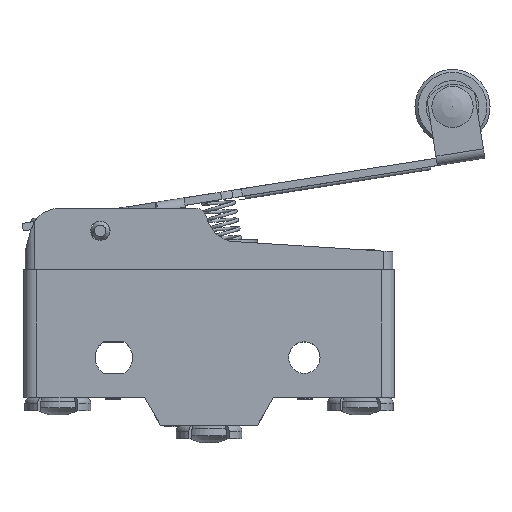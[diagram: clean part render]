
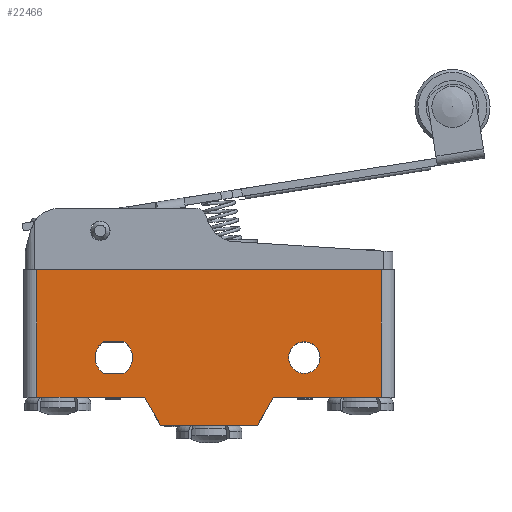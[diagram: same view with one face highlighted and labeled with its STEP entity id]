
A CAD part, top view. The second image highlights one B-rep face of the part: STEP entity #22466.
In plain terms, the highlighted planar face has unit normal (0, 0, 1).
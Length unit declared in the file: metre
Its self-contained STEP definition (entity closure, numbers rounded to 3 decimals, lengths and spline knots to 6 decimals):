
#17550=CARTESIAN_POINT('',(0.007822,-0.007756,0.05825));
#17551=VERTEX_POINT('',#17550);
#17554=CARTESIAN_POINT('',(0.005686,-0.011456,0.05825));
#17555=DIRECTION('',(0.5,0.866,0.));
#17556=VECTOR('',#17555,1.);
#17557=LINE('',#17554,#17556);
#17558=CARTESIAN_POINT('',(0.005686,-0.011456,0.05825));
#17559=VERTEX_POINT('',#17558);
#17560=EDGE_CURVE('',#17559,#17551,#17557,.T.);
#18593=CARTESIAN_POINT('',(-0.007242,-0.011456,0.05825));
#18594=VERTEX_POINT('',#18593);
#18597=CARTESIAN_POINT('',(-0.009378,-0.007756,0.05825));
#18598=DIRECTION('',(0.5,-0.866,0.));
#18599=VECTOR('',#18598,1.);
#18600=LINE('',#18597,#18599);
#18601=CARTESIAN_POINT('',(-0.009378,-0.007756,0.05825));
#18602=VERTEX_POINT('',#18601);
#18603=EDGE_CURVE('',#18602,#18594,#18600,.T.);
#18680=CARTESIAN_POINT('',(-0.023728,0.009244,0.05825));
#18681=VERTEX_POINT('',#18680);
#18690=CARTESIAN_POINT('',(-0.023728,-0.007756,0.05825));
#18691=VERTEX_POINT('',#18690);
#18694=CARTESIAN_POINT('',(-0.023728,-0.003156,0.05825));
#18695=DIRECTION('',(0.,-1.,0.));
#18696=VECTOR('',#18695,1.);
#18697=LINE('',#18694,#18696);
#18698=EDGE_CURVE('',#18681,#18691,#18697,.T.);
#20077=CARTESIAN_POINT('',(-0.025478,-0.007756,0.05825));
#20078=DIRECTION('',(1.,0.,0.));
#20079=VECTOR('',#20078,1.);
#20080=LINE('',#20077,#20079);
#20081=EDGE_CURVE('',#18691,#18602,#20080,.T.);
#20192=CARTESIAN_POINT('',(0.022172,-0.007756,0.05825));
#20193=VERTEX_POINT('',#20192);
#20211=CARTESIAN_POINT('',(0.022172,0.009244,0.05825));
#20212=VERTEX_POINT('',#20211);
#20215=CARTESIAN_POINT('',(0.022172,-0.003156,0.05825));
#20216=DIRECTION('',(0.,1.,0.));
#20217=VECTOR('',#20216,1.);
#20218=LINE('',#20215,#20217);
#20219=EDGE_CURVE('',#20193,#20212,#20218,.T.);
#20329=CARTESIAN_POINT('',(0.023922,0.009244,0.05825));
#20330=DIRECTION('',(-1.,0.,0.));
#20331=VECTOR('',#20330,1.);
#20332=LINE('',#20329,#20331);
#20333=EDGE_CURVE('',#20212,#18681,#20332,.T.);
#22251=CARTESIAN_POINT('',(0.007822,-0.007756,0.05825));
#22252=DIRECTION('',(1.,0.,0.));
#22253=VECTOR('',#22252,1.);
#22254=LINE('',#22251,#22253);
#22255=EDGE_CURVE('',#17551,#20193,#22254,.T.);
#22289=CARTESIAN_POINT('',(-0.014834,-0.000356,0.05825));
#22290=VERTEX_POINT('',#22289);
#22293=CARTESIAN_POINT('',(-0.013478,-0.002456,0.05825));
#22294=DIRECTION('',(0.,0.,1.));
#22295=DIRECTION('',(1.,0.,0.));
#22296=AXIS2_PLACEMENT_3D('',#22293,#22294,#22295);
#22297=CIRCLE('',#22296,0.0025);
#22298=CARTESIAN_POINT('',(-0.014834,-0.004556,0.05825));
#22299=VERTEX_POINT('',#22298);
#22300=EDGE_CURVE('',#22290,#22299,#22297,.T.);
#22333=CARTESIAN_POINT('',(-0.012121,-0.004556,0.05825));
#22334=DIRECTION('',(1.,0.,0.));
#22335=VECTOR('',#22334,1.);
#22336=LINE('',#22333,#22335);
#22337=CARTESIAN_POINT('',(-0.012121,-0.004556,0.05825));
#22338=VERTEX_POINT('',#22337);
#22339=EDGE_CURVE('',#22299,#22338,#22336,.T.);
#22363=CARTESIAN_POINT('',(-0.013478,-0.002456,0.05825));
#22364=DIRECTION('',(0.,0.,1.));
#22365=DIRECTION('',(1.,0.,0.));
#22366=AXIS2_PLACEMENT_3D('',#22363,#22364,#22365);
#22367=CIRCLE('',#22366,0.0025);
#22368=CARTESIAN_POINT('',(-0.012121,-0.000356,0.05825));
#22369=VERTEX_POINT('',#22368);
#22370=EDGE_CURVE('',#22338,#22369,#22367,.T.);
#22405=CARTESIAN_POINT('',(-0.012121,-0.000356,0.05825));
#22406=DIRECTION('',(-1.,0.,0.));
#22407=VECTOR('',#22406,1.);
#22408=LINE('',#22405,#22407);
#22409=EDGE_CURVE('',#22369,#22290,#22408,.T.);
#22429=CARTESIAN_POINT('',(0.012562,-0.003156,0.05825));
#22430=DIRECTION('',(0.,0.,-1.));
#22431=DIRECTION('',(-1.,0.,0.));
#22432=AXIS2_PLACEMENT_3D('',#22429,#22430,#22431);
#22433=PLANE('',#22432);
#22434=ORIENTED_EDGE('',*,*,#22409,.F.);
#22435=ORIENTED_EDGE('',*,*,#22370,.F.);
#22436=ORIENTED_EDGE('',*,*,#22339,.F.);
#22437=ORIENTED_EDGE('',*,*,#22300,.F.);
#22438=EDGE_LOOP('',(#22434,#22435,#22436,#22437));
#22439=FACE_BOUND('',#22438,.T.);
#22440=CARTESIAN_POINT('',(0.011922,-0.002456,0.05825));
#22441=DIRECTION('',(0.,0.,1.));
#22442=DIRECTION('',(1.,0.,0.));
#22443=AXIS2_PLACEMENT_3D('',#22440,#22441,#22442);
#22444=CIRCLE('',#22443,0.0021);
#22445=CARTESIAN_POINT('',(0.009822,-0.002456,0.05825));
#22446=VERTEX_POINT('',#22445);
#22447=EDGE_CURVE('',#22446,#22446,#22444,.T.);
#22448=ORIENTED_EDGE('',*,*,#22447,.F.);
#22449=EDGE_LOOP('',(#22448));
#22450=FACE_BOUND('',#22449,.T.);
#22451=ORIENTED_EDGE('',*,*,#22255,.T.);
#22452=ORIENTED_EDGE('',*,*,#20219,.T.);
#22453=ORIENTED_EDGE('',*,*,#20333,.T.);
#22454=ORIENTED_EDGE('',*,*,#18698,.T.);
#22455=ORIENTED_EDGE('',*,*,#20081,.T.);
#22456=ORIENTED_EDGE('',*,*,#18603,.T.);
#22457=CARTESIAN_POINT('',(-0.007242,-0.011456,0.05825));
#22458=DIRECTION('',(1.,0.,0.));
#22459=VECTOR('',#22458,1.);
#22460=LINE('',#22457,#22459);
#22461=EDGE_CURVE('',#18594,#17559,#22460,.T.);
#22462=ORIENTED_EDGE('',*,*,#22461,.T.);
#22463=ORIENTED_EDGE('',*,*,#17560,.T.);
#22464=EDGE_LOOP('',(#22451,#22452,#22453,#22454,#22455,#22456,#22462,#22463));
#22465=FACE_BOUND('',#22464,.T.);
#22466=ADVANCED_FACE('',(#22439,#22450,#22465),#22433,.F.);
